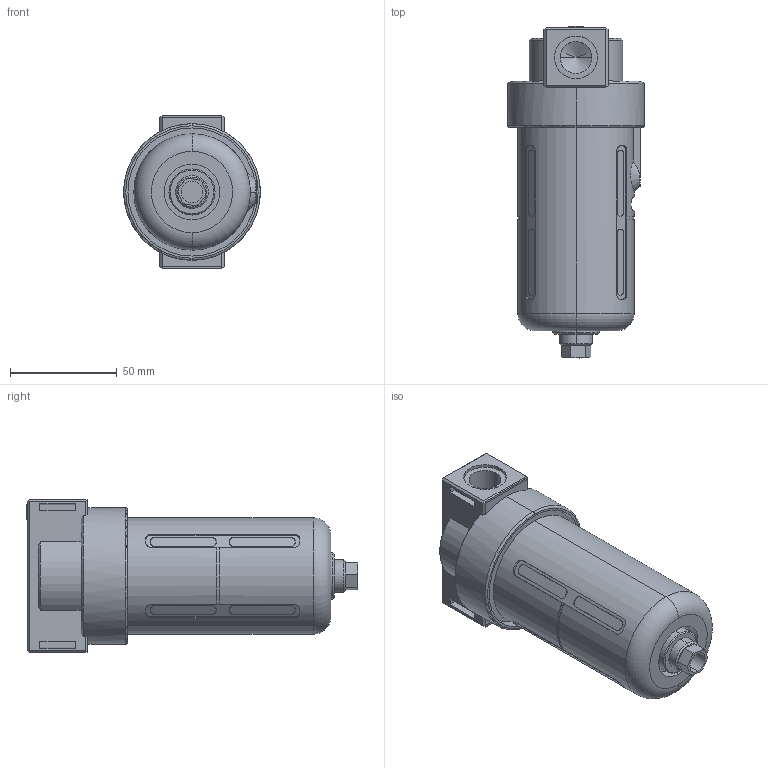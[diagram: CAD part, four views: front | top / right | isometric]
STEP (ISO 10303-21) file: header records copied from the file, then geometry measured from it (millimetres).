
FILE_DESCRIPTION (( 'STEP AP214' ), '1' );
FILE_NAME ('BF-3000.STEP', '2016-01-21T15:54:44', ( '' ), ( '' ), 'SwSTEP 2.0', 'SolidWorks 2016', '' );
FILE_SCHEMA (( 'AUTOMOTIVE_DESIGN' ));
Length unit declared in the file: millimetre
Products named in the file (3): BF-3000; 2; 1
Assembly tree (2 placements, depth 2):
  BF-3000
    1
    2
Bounding box: 64 x 155.45 x 72 mm (x, y, z)
Volume: 160748.5 mm3; surface area: 64404.3 mm2
Topology: 2 solids, 2 shells, 407 faces, 1073 edges, 703 vertices
Faces by surface type: plane 242, cylinder 134, cone 25, torus 6
Entity records: 18096 total; most frequent: CARTESIAN_POINT 3290, ORIENTED_EDGE 2138, DIRECTION 2128, EDGE_CURVE 1069, AXIS2_PLACEMENT_3D 710, LINE 708, VECTOR 708, VERTEX_POINT 703
